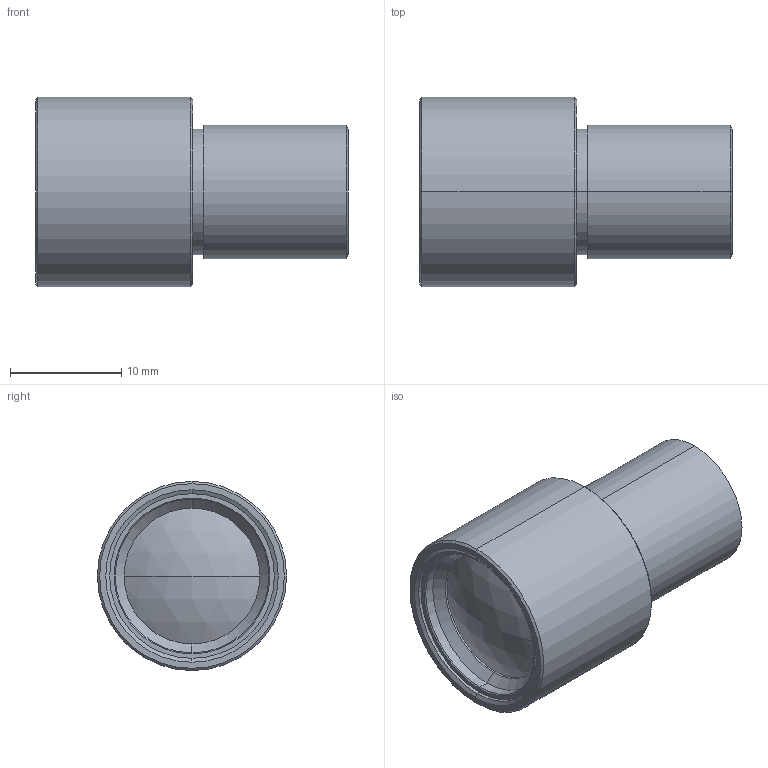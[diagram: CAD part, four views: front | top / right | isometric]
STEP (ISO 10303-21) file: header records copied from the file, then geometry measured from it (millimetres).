
FILE_DESCRIPTION (( 'STEP AP214' ), '1' );
FILE_NAME ('E2520KV.STEP', '2021-04-19T23:42:47', ( '' ), ( '' ), 'SwSTEP 2.0', 'SolidWorks 2021', '' );
FILE_SCHEMA (( 'AUTOMOTIVE_DESIGN' ));
Length unit declared in the file: millimetre
Products named in the file (1): E2520KV
Bounding box: 28.1 x 17 x 17 mm (x, y, z)
Volume: 4005.1 mm3; surface area: 2027.4 mm2
Topology: 1 solids, 1 shells, 55 faces, 112 edges, 66 vertices
Faces by surface type: cone 24, cylinder 20, plane 7, sphere 4
Entity records: 2085 total; most frequent: DIRECTION 292, CARTESIAN_POINT 234, ORIENTED_EDGE 224, AXIS2_PLACEMENT_3D 124, EDGE_CURVE 112, CIRCLE 68, VERTEX_POINT 66, EDGE_LOOP 62
